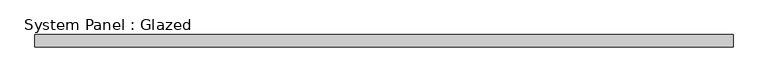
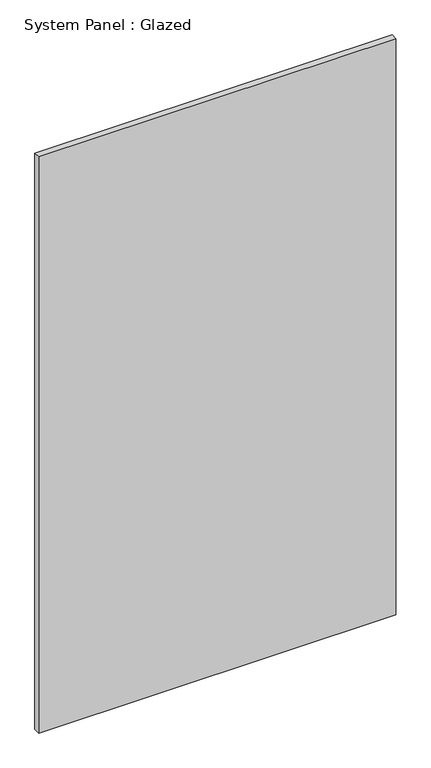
"""IFC4 building model written with IfcOpenShell, lengths in millimetres: plate geometry, System Panel : Glazed."""

from ifc_helpers import new_model, si_unit, origin, origin_with_axes, place, context, project, spatial, polyline, outline, extrude, source, transform, mapped, element, save


def system_panel_glazed_2d0f29b6(model_context):
    return source(origin(), model_context, "Body", "SweptSolid", [
        extrude(outline(polyline([(701.1238281, -49.5), (-701.1238281, -49.5), (-701.1238281, -24.5), (701.1238281, -24.5), (701.1238281, -49.5)])), origin_with_axes(), (0.0, 0.0, 1.0), 2390.0),
    ])


if __name__ == "__main__":
    model = new_model("IFC4")
    model_context = context("Model", 3, world=origin())
    ifc_project = project(units=[si_unit("LENGTHUNIT", "METRE", prefix="MILLI")], contexts=[model_context])
    site = spatial("IfcSite", under=ifc_project)
    building = spatial("IfcBuilding", under=site)
    placement = place(None, origin())
    system_panel_glazed_shape = system_panel_glazed_2d0f29b6(model_context)
    element("IfcPlate", 1, ObjectType="System Panel : Glazed", at=placement, inside=building, context=model_context, shape_type="MappedRepresentation", body=[
        mapped(system_panel_glazed_shape, transform((0.0, 0.0, 0.0), x_axis=(1.0, 0.0, 0.0), y_axis=(0.0, 1.0, 0.0), z_axis=(0.0, 0.0, 1.0))),
    ])
    save(model, "model.ifc")
